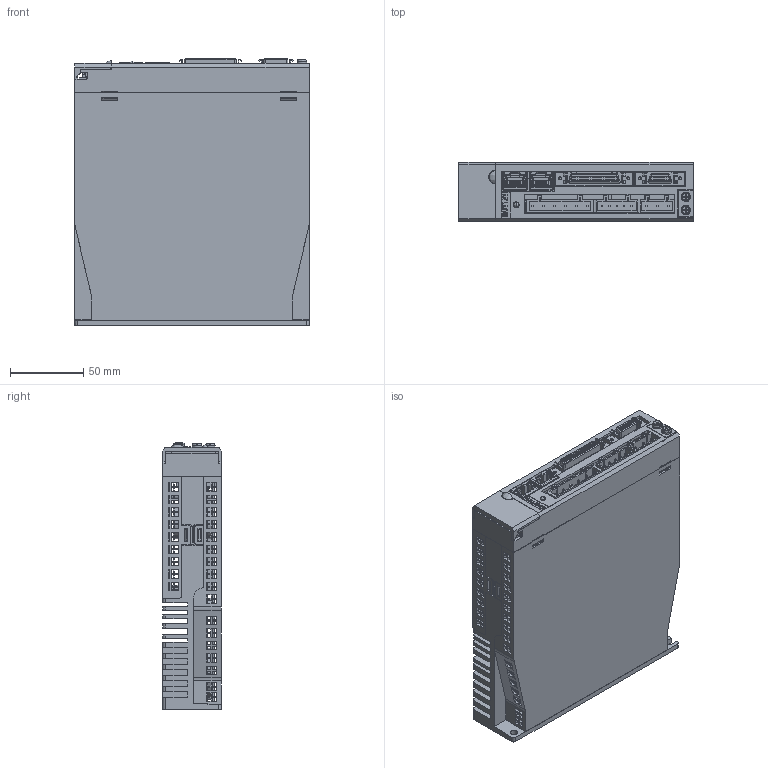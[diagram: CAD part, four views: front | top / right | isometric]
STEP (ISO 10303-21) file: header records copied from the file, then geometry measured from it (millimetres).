
FILE_DESCRIPTION (( 'STEP AP214' ), '1' );
FILE_NAME ('PRONET-04A.STEP', '2013-11-26T22:46:59', ( '' ), ( '' ), 'SwSTEP 2.0', 'SolidWorks 2013', '' );
FILE_SCHEMA (( 'AUTOMOTIVE_DESIGN' ));
Length unit declared in the file: inch
Products named in the file (20): 裔啣A; 裔啣B; 855050013; 529865079; 529862069; 驱动板; 扇热器; anniu; sumaguang; 珆尨啣; 珆尨裔啣; ヶ裔啣; LIGHTB; B3; B6; B5; 諷秶啣; JIEDILUOSI; PRONET-04A; ESTUN
Assembly tree (24 placements, depth 2):
  PRONET-04A
    諷秶啣
    B5
    B6
    B3
    LIGHTB
    ヶ裔啣
    珆尨裔啣
    珆尨啣
    sumaguang
    anniu  x4
    扇热器
    驱动板
    529862069
    529865079
    855050013  x2
    裔啣B
    裔啣A
    ESTUN
    JIEDILUOSI  x2
Bounding box: 160 x 40 x 182.3 mm (x, y, z)
Volume: 470429.3 mm3; surface area: 352483.9 mm2
Topology: 28 solids, 28 shells, 5947 faces, 17381 edges, 11511 vertices
Faces by surface type: plane 4767, cylinder 1051, cone 84, bspline 43, sphere 2
Entity records: 171825 total; most frequent: CARTESIAN_POINT 31593, ORIENTED_EDGE 29772, DIRECTION 26204, EDGE_CURVE 14886, VECTOR 12556, LINE 12556, VERTEX_POINT 9872, AXIS2_PLACEMENT_3D 6824
